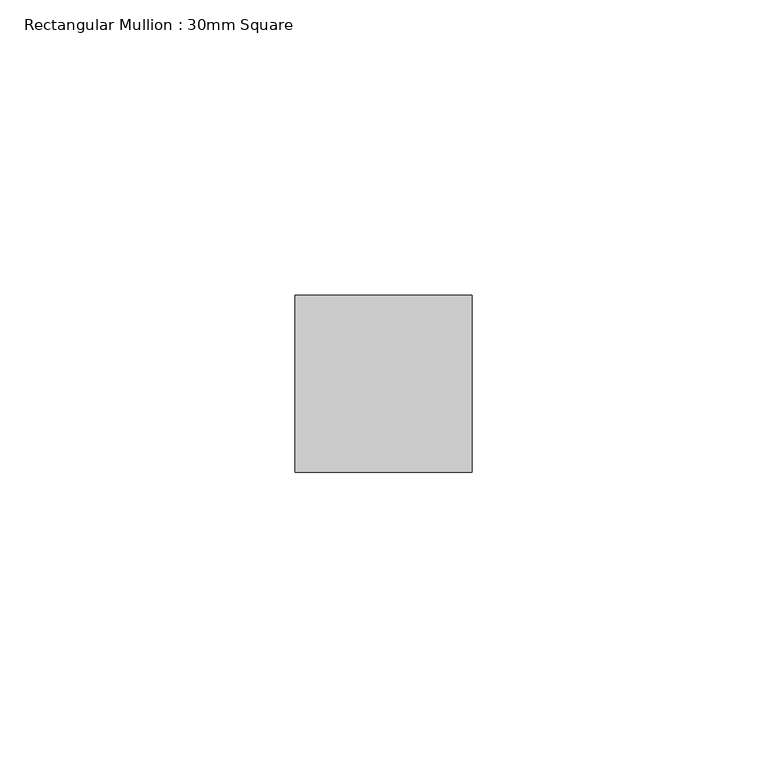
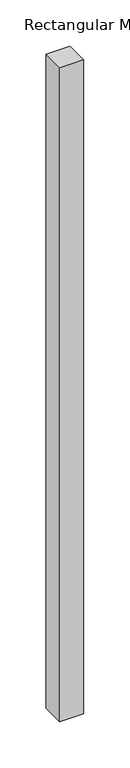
"""IFC4 building model written with IfcOpenShell, lengths in millimetres: member geometry, Rectangular Mullion : 30mm Square."""

from ifc_helpers import new_model, si_unit, frame, origin, place, context, project, spatial, polyline, outline, extrude, source, transform, mapped, element, save


def rectangular_mullion_30mm_square_cd8ee191(model_context):
    return source(origin(), model_context, "Body", "SweptSolid", [
        extrude(outline(polyline([(0.0, 15.0), (0.0, -15.0), (-30.0, -15.0), (-30.0, 15.0), (0.0, 15.0)])), frame((0.0, 0.0, -865.0), z_axis=(0.0, 0.0, 1.0), x_axis=(1.0, 0.0, 0.0)), (0.0, 0.0, 1.0), 865.0),
    ])


if __name__ == "__main__":
    model = new_model("IFC4")
    model_context = context("Model", 3, world=origin())
    ifc_project = project(units=[si_unit("LENGTHUNIT", "METRE", prefix="MILLI")], contexts=[model_context])
    site = spatial("IfcSite", under=ifc_project)
    building = spatial("IfcBuilding", under=site)
    placement = place(None, origin())
    rectangular_mullion_30mm_square_shape = rectangular_mullion_30mm_square_cd8ee191(model_context)
    element("IfcMember", 1, ObjectType="Rectangular Mullion : 30mm Square", at=placement, inside=building, context=model_context, shape_type="MappedRepresentation", body=[
        mapped(rectangular_mullion_30mm_square_shape, transform((0.0, 0.0, 0.0), x_axis=(1.0, 0.0, 0.0), y_axis=(0.0, 1.0, 0.0), z_axis=(0.0, 0.0, 1.0))),
    ])
    save(model, "model.ifc")
